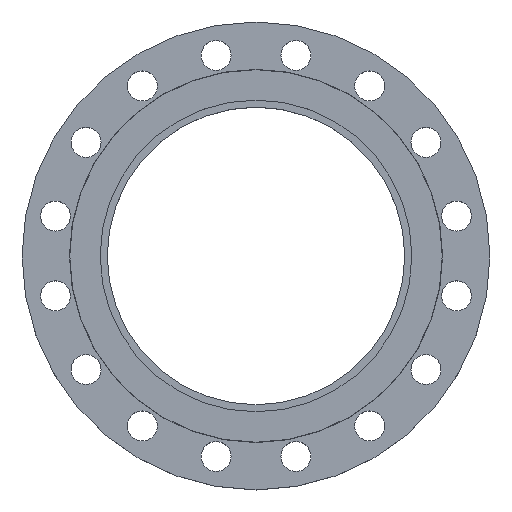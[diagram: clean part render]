
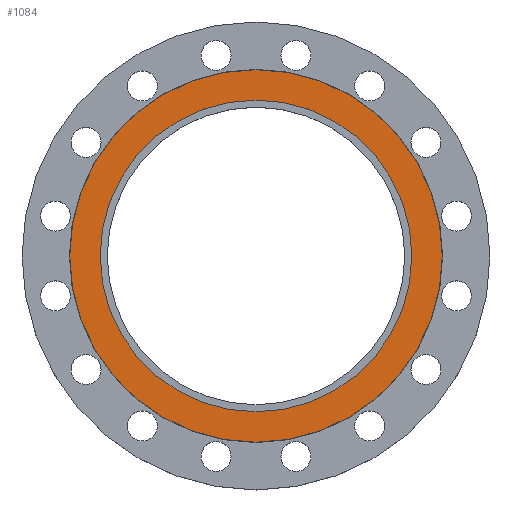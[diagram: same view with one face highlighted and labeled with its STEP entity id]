
A CAD part, top view. The second image highlights one B-rep face of the part: STEP entity #1084.
In plain terms, the highlighted planar face has unit normal (0, 0, 1).
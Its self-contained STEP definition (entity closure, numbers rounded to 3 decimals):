
#35 = CARTESIAN_POINT ( 'NONE',  ( -171.5, 0., 0. ) ) ;
#39 = VERTEX_POINT ( 'NONE', #35 ) ;
#43 = EDGE_LOOP ( 'NONE', ( #442, #444 ) ) ;
#57 = EDGE_LOOP ( 'NONE', ( #448, #449 ) ) ;
#88 = VERTEX_POINT ( 'NONE', #331 ) ;
#228 = EDGE_CURVE ( 'NONE', #466, #39, #277, .T. ) ;
#271 = CIRCLE ( 'NONE', #274, 205. ) ;
#274 = AXIS2_PLACEMENT_3D ( 'NONE', #1506, #1505, #1504 ) ;
#277 = CIRCLE ( 'NONE', #279, 171.5 ) ;
#279 = AXIS2_PLACEMENT_3D ( 'NONE', #1535, #1534, #1533 ) ;
#291 = EDGE_CURVE ( 'NONE', #88, #1066, #271, .T. ) ;
#331 = CARTESIAN_POINT ( 'NONE',  ( -205., 0., 0. ) ) ;
#442 = ORIENTED_EDGE ( 'NONE', *, *, #291, .F. ) ;
#444 = ORIENTED_EDGE ( 'NONE', *, *, #1136, .F. ) ;
#448 = ORIENTED_EDGE ( 'NONE', *, *, #815, .T. ) ;
#449 = ORIENTED_EDGE ( 'NONE', *, *, #228, .T. ) ;
#466 = VERTEX_POINT ( 'NONE', #1424 ) ;
#542 = AXIS2_PLACEMENT_3D ( 'NONE', #927, #926, #924 ) ;
#574 = CIRCLE ( 'NONE', #767, 171.5 ) ;
#767 = AXIS2_PLACEMENT_3D ( 'NONE', #1231, #1230, #1227 ) ;
#815 = EDGE_CURVE ( 'NONE', #39, #466, #574, .T. ) ;
#878 = DIRECTION ( 'NONE',  ( -1., 0., 0. ) ) ;
#879 = DIRECTION ( 'NONE',  ( 0., 0., -1. ) ) ;
#881 = CARTESIAN_POINT ( 'NONE',  ( 0., 0., 0. ) ) ;
#915 = AXIS2_PLACEMENT_3D ( 'NONE', #881, #879, #878 ) ;
#924 = DIRECTION ( 'NONE',  ( 1., 0., 0. ) ) ;
#926 = DIRECTION ( 'NONE',  ( 0., 0., 1. ) ) ;
#927 = CARTESIAN_POINT ( 'NONE',  ( 0., 0., 0. ) ) ;
#929 = PLANE ( 'NONE',  #542 ) ;
#930 = FACE_BOUND ( 'NONE', #57, .T. ) ;
#931 = FACE_OUTER_BOUND ( 'NONE', #43, .T. ) ;
#937 = CARTESIAN_POINT ( 'NONE',  ( 205., 0., 0. ) ) ;
#1066 = VERTEX_POINT ( 'NONE', #937 ) ;
#1084 = ADVANCED_FACE ( 'NONE', ( #931, #930 ), #929, .T. ) ;
#1119 = CIRCLE ( 'NONE', #915, 205. ) ;
#1136 = EDGE_CURVE ( 'NONE', #1066, #88, #1119, .T. ) ;
#1227 = DIRECTION ( 'NONE',  ( -1., 0., 0. ) ) ;
#1230 = DIRECTION ( 'NONE',  ( 0., 0., -1. ) ) ;
#1231 = CARTESIAN_POINT ( 'NONE',  ( 0., 0., 0. ) ) ;
#1424 = CARTESIAN_POINT ( 'NONE',  ( 171.5, 0., 0. ) ) ;
#1504 = DIRECTION ( 'NONE',  ( -1., 0., 0. ) ) ;
#1505 = DIRECTION ( 'NONE',  ( 0., 0., -1. ) ) ;
#1506 = CARTESIAN_POINT ( 'NONE',  ( 0., 0., 0. ) ) ;
#1533 = DIRECTION ( 'NONE',  ( -1., 0., 0. ) ) ;
#1534 = DIRECTION ( 'NONE',  ( 0., 0., -1. ) ) ;
#1535 = CARTESIAN_POINT ( 'NONE',  ( 0., 0., 0. ) ) ;
